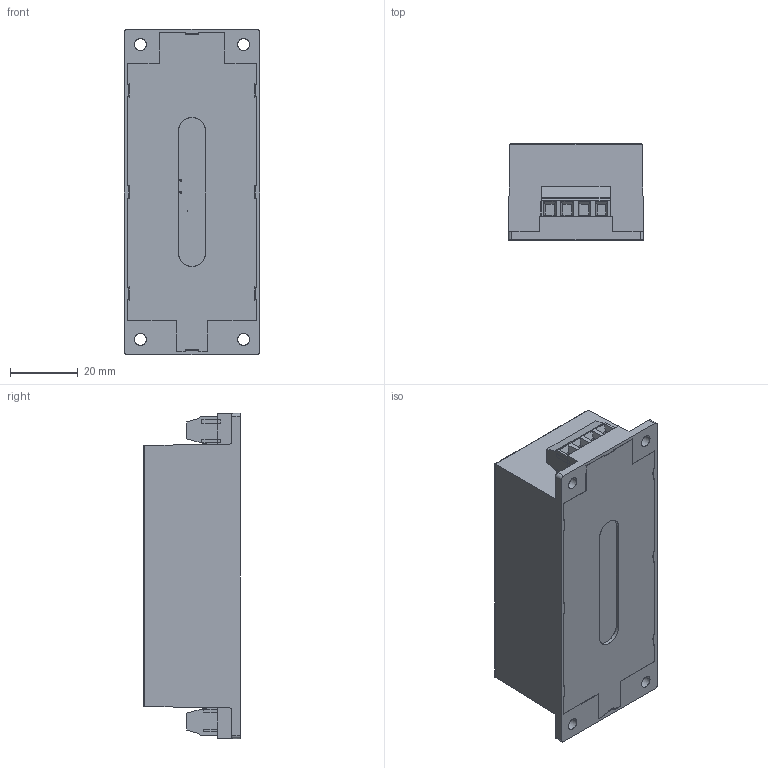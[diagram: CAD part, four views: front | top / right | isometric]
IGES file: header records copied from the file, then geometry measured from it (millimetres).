
Start section: SolidWorks IGES file using analytic representation for surfaces
Global section: file name: C:\Users\ksmith\OneDrive - XP Power\Desktop\ECE40\ECE40-S.IGS; native system: SolidWorks 2020; preprocessor: SolidWorks 2020; author: ksmith; date: 210301.153109; units: inch
Bounding box: 40 x 28.45 x 96 mm (x, y, z)
Surface area: 64668.5 mm2 (no closed solid volume)
Topology: 0 solids, 0 shells, 1465 faces, 12524 edges, 12516 vertices
Faces by surface type: bspline 1145, revolution 320
